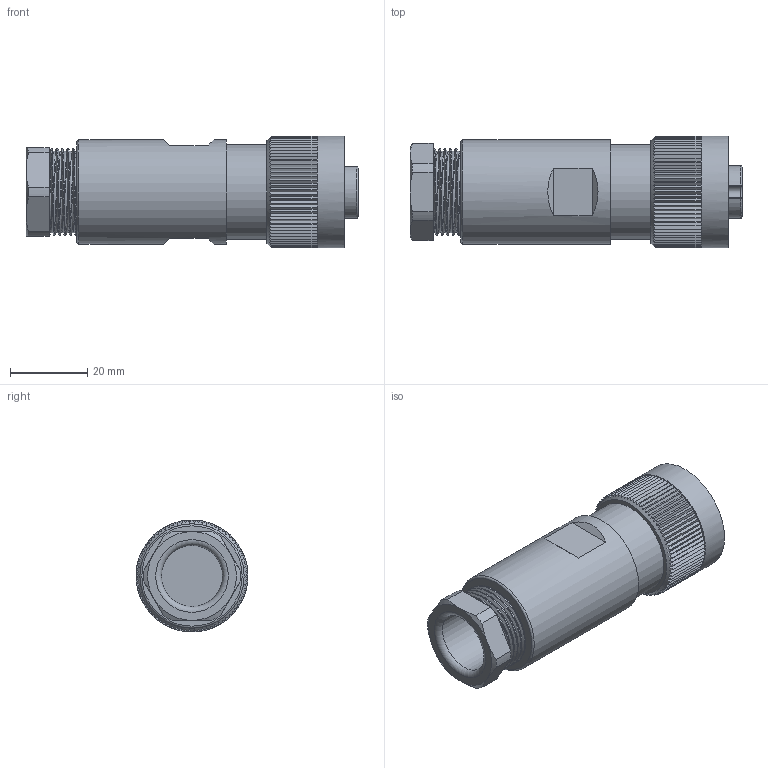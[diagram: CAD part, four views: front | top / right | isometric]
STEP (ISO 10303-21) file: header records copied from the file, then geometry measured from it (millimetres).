
FILE_DESCRIPTION(/* description */ (''),/* implementation_level */ '2;1');
FILE_NAME(/* name */ '99-0202-160-07-001_00-KD crimp PG 16.stp',/* time_stamp */ '2017-11-06T12:51:41+01:00',/* author */ (''),/* organization */ (''),/* preprocessor_version */ 'ST-DEVELOPER v16',/* originating_system */ 'SIEMENS PLM Software NX 11.0',/* authorisation */ '');
FILE_SCHEMA (('AUTOMOTIVE_DESIGN { 1 0 10303 214 3 1 1 1 }'));
Length unit declared in the file: millimetre
Products named in the file (1): mfur199881AAzprd
Bounding box: 86 x 29 x 29 mm (x, y, z)
Volume: 39784.7 mm3; surface area: 11838 mm2
Topology: 1 solids, 2 shells, 272 faces, 764 edges, 505 vertices
Faces by surface type: plane 208, cylinder 38, bspline 11, torus 8, cone 7
Full cylindrical faces by diameter (mm): 3.05 x7, 3.8 x1, 13.6 x2, 15.8 x1, 22.8 x1, 24.5 x1, 27 x1, 29 x1
Entity records: 14663 total; most frequent: CARTESIAN_POINT 8337, ORIENTED_EDGE 1440, DIRECTION 1071, EDGE_CURVE 720, VERTEX_POINT 491, LINE 369, VECTOR 369, AXIS2_PLACEMENT_3D 351
